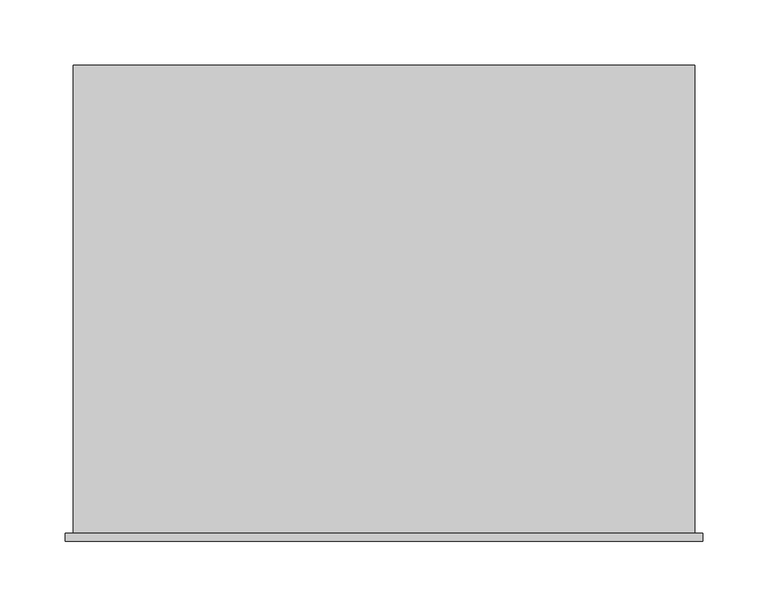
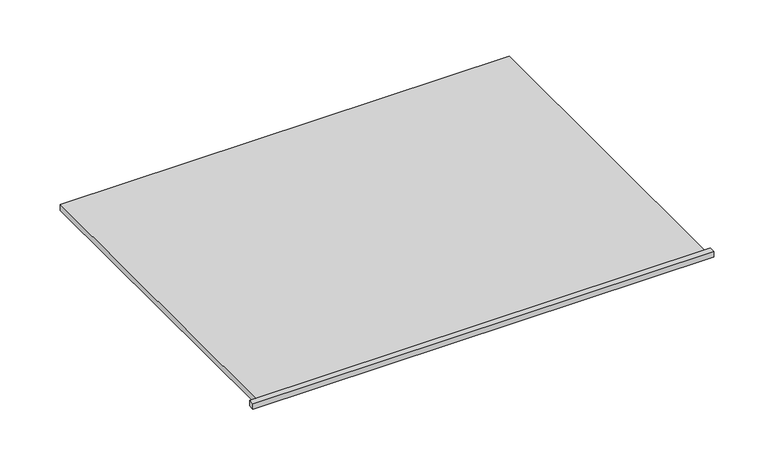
"""IFC4 building model written with IfcOpenShell, lengths in millimetres: furniture geometry."""

from ifc_helpers import new_model, si_unit, origin, origin_with_axes, place, context, project, spatial, polyline, outline, extrude, source, transform, mapped, element, save


def furniture_d049413f(model_context):
    return source(origin(), model_context, "Body", "SweptSolid", [
        extrude(outline(polyline([(508.0, 6.35), (508.0, 0.0), (19.05, 0.0), (19.05, 6.35), (508.0, 6.35)])), origin_with_axes(), (0.0, 0.0, 1.0), 6.35),
        extrude(outline(polyline([(501.65, 365.125), (501.65, 6.35), (25.4, 6.35), (25.4, 365.125), (501.65, 365.125)])), origin_with_axes(), (0.0, 0.0, 1.0), 6.35),
    ])


if __name__ == "__main__":
    model = new_model("IFC4")
    model_context = context("Model", 3, world=origin())
    ifc_project = project(units=[si_unit("LENGTHUNIT", "METRE", prefix="MILLI")], contexts=[model_context])
    site = spatial("IfcSite", under=ifc_project)
    building = spatial("IfcBuilding", under=site)
    placement = place(None, origin())
    furniture_shape = furniture_d049413f(model_context)
    element("IfcFurniture", 1, ObjectType="HermanMiller_Carts_CT542_CassetteCover : 15\"D x 20\"W Cover", at=placement, inside=building, context=model_context, shape_type="MappedRepresentation", body=[
        mapped(furniture_shape, transform((0.0, 0.0, 0.0), x_axis=(1.0, 0.0, 0.0), y_axis=(0.0, 1.0, 0.0), z_axis=(0.0, 0.0, 1.0))),
    ])
    save(model, "model.ifc")
